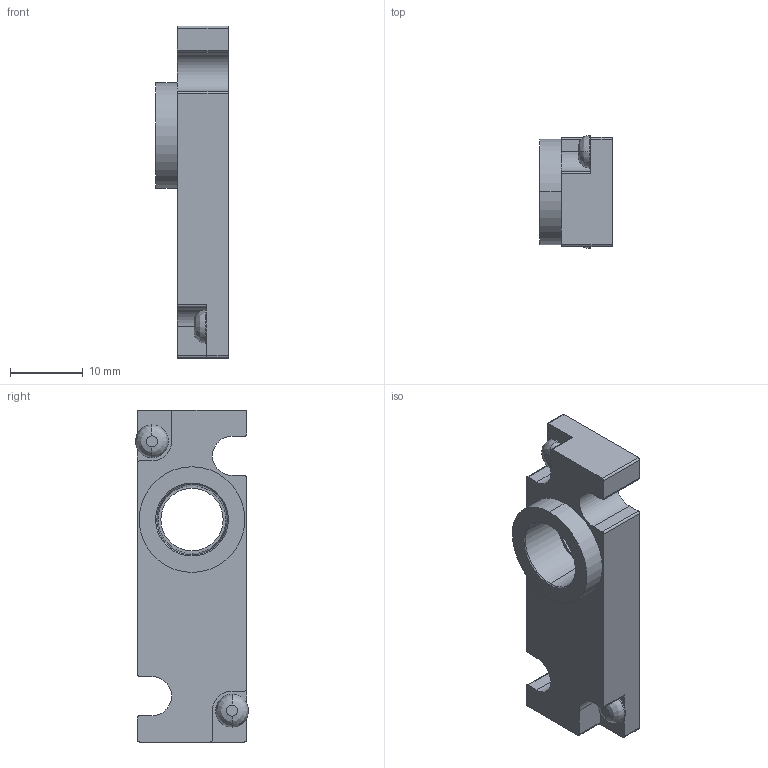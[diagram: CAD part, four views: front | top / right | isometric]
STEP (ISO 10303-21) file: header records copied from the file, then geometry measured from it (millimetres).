
FILE_DESCRIPTION( (''), '2;1');
FILE_NAME ('CVICAD02.6608.F15_Port-FMA_22696.stp','2021-07-12T19:18:55',(''),(''),'spGate 12.6.6','','');
FILE_SCHEMA (('AUTOMOTIVE_DESIGN'));
Length unit declared in the file: millimetre
Bounding box: 10 x 15.5 x 45.6 mm (x, y, z)
Volume: 4099.5 mm3; surface area: 2539.5 mm2
Topology: 1 solids, 1 shells, 56 faces, 146 edges, 94 vertices
Faces by surface type: plane 24, cylinder 24, bspline 8
Entity records: 3011 total; most frequent: CARTESIAN_POINT 456, ORIENTED_EDGE 292, DIRECTION 288, COLOUR_RGB 203, PRESENTATION_STYLE_ASSIGNMENT 203, STYLED_ITEM 203, EDGE_CURVE 146, DRAUGHTING_PRE_DEFINED_CURVE_FONT 146
